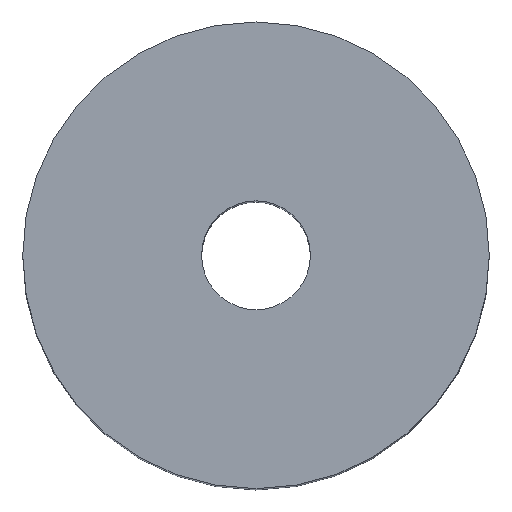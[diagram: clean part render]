
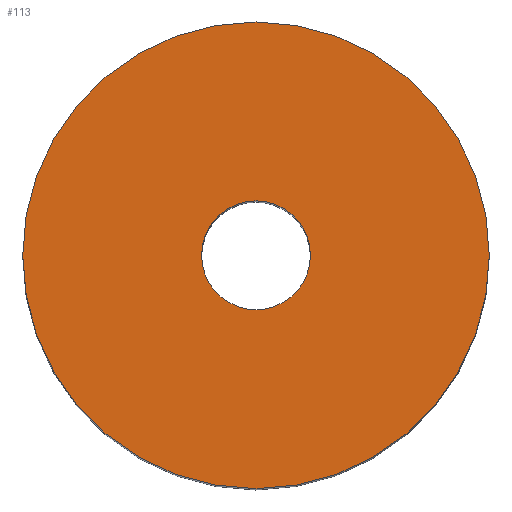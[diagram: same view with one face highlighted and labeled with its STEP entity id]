
A CAD part, top view. The second image highlights one B-rep face of the part: STEP entity #113.
In plain terms, the highlighted planar face has unit normal (0, 0, 1).
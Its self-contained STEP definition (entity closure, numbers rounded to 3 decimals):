
#113=ADVANCED_FACE('',(#121,#122),#119,.T.);
#119=PLANE('',#190);
#121=FACE_BOUND('',#125,.T.);
#122=FACE_BOUND('',#126,.T.);
#125=EDGE_LOOP('',(#133,#134));
#126=EDGE_LOOP('',(#135,#136));
#133=ORIENTED_EDGE('',*,*,#165,.T.);
#134=ORIENTED_EDGE('',*,*,#166,.T.);
#135=ORIENTED_EDGE('',*,*,#167,.F.);
#136=ORIENTED_EDGE('',*,*,#168,.F.);
#157=VERTEX_POINT('',#236);
#158=VERTEX_POINT('',#237);
#159=VERTEX_POINT('',#240);
#160=VERTEX_POINT('',#241);
#165=EDGE_CURVE('',#157,#158,#177,.T.);
#166=EDGE_CURVE('',#158,#157,#178,.T.);
#167=EDGE_CURVE('',#159,#160,#179,.T.);
#168=EDGE_CURVE('',#160,#159,#180,.T.);
#177=CIRCLE('',#186,30.);
#178=CIRCLE('',#187,30.);
#179=CIRCLE('',#188,7.);
#180=CIRCLE('',#189,7.);
#186=AXIS2_PLACEMENT_3D('',#235,#202,#203);
#187=AXIS2_PLACEMENT_3D('',#238,#204,#205);
#188=AXIS2_PLACEMENT_3D('',#239,#206,#207);
#189=AXIS2_PLACEMENT_3D('',#242,#208,#209);
#190=AXIS2_PLACEMENT_3D('',#243,#210,#211);
#202=DIRECTION('',(0.,0.,1.));
#203=DIRECTION('',(0.,1.,0.));
#204=DIRECTION('',(0.,0.,1.));
#205=DIRECTION('',(0.,-1.,0.));
#206=DIRECTION('',(0.,0.,1.));
#207=DIRECTION('',(0.,-1.,0.));
#208=DIRECTION('',(0.,0.,1.));
#209=DIRECTION('',(0.,1.,0.));
#210=DIRECTION('',(0.,0.,1.));
#211=DIRECTION('',(0.,1.,0.));
#235=CARTESIAN_POINT('',(0.,0.,100.));
#236=CARTESIAN_POINT('',(-30.,0.,100.));
#237=CARTESIAN_POINT('',(30.,0.,100.));
#238=CARTESIAN_POINT('',(0.,0.,100.));
#239=CARTESIAN_POINT('',(0.,0.,100.));
#240=CARTESIAN_POINT('',(7.,0.,100.));
#241=CARTESIAN_POINT('',(-7.,0.,100.));
#242=CARTESIAN_POINT('',(0.,0.,100.));
#243=CARTESIAN_POINT('',(0.,0.,100.));
